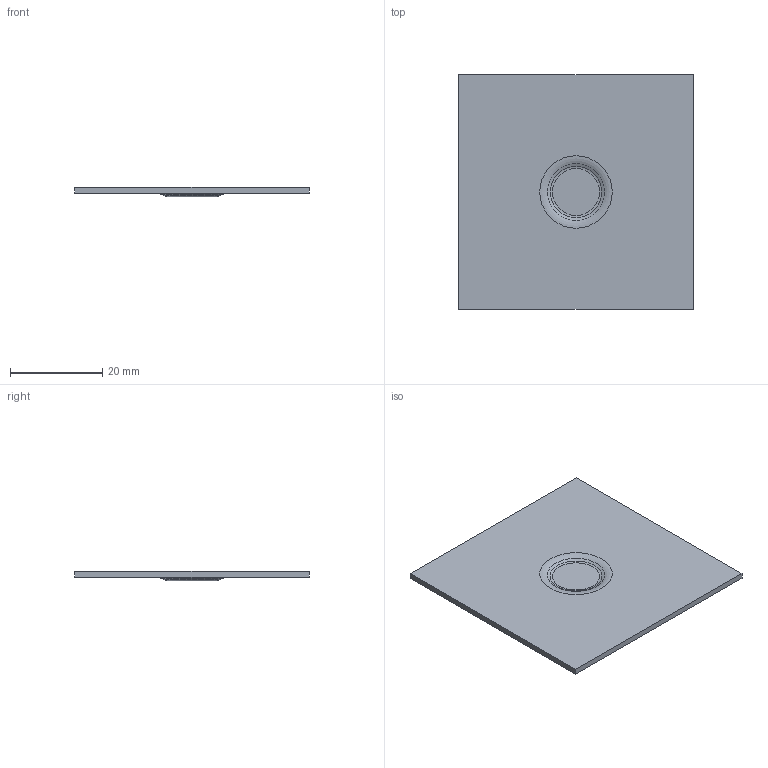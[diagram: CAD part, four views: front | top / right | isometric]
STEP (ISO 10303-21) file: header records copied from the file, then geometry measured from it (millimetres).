
FILE_DESCRIPTION(('PART XYZ REV A'),'1');
FILE_NAME('EF12','2012-03-30T17:32:31',('ERIC'),('TRIAX'),'Spatial Interop R21 SP3','Kubotek KeyCreator 2011 V10.5.0 (24766)','CHAZ');
FILE_SCHEMA(('CONFIG_CONTROL_DESIGN'));
Length unit declared in the file: inch
Products named in the file (1): 1
Bounding box: 50.82 x 50.8 x 2.03 mm (x, y, z)
Volume: 3285.7 mm3; surface area: 5432.5 mm2
Topology: 1 solids, 1 shells, 14 faces, 26 edges, 16 vertices
Faces by surface type: plane 8, torus 4, cone 2
Entity records: 360 total; most frequent: DIRECTION 58, CARTESIAN_POINT 51, ORIENTED_EDGE 40, AXIS2_PLACEMENT_3D 23, EDGE_LOOP 22, EDGE_CURVE 20, VERTEX_POINT 16, ADVANCED_FACE 14
